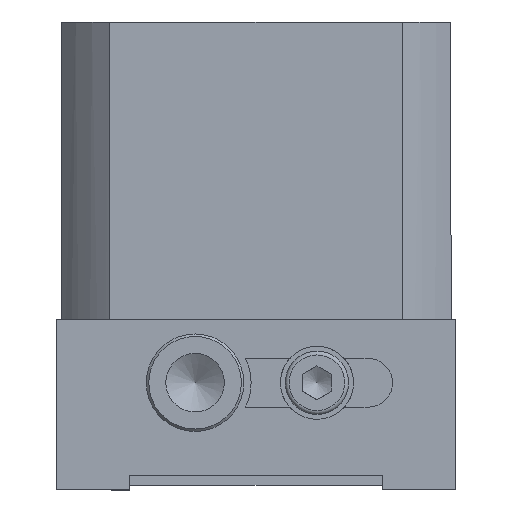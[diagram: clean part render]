
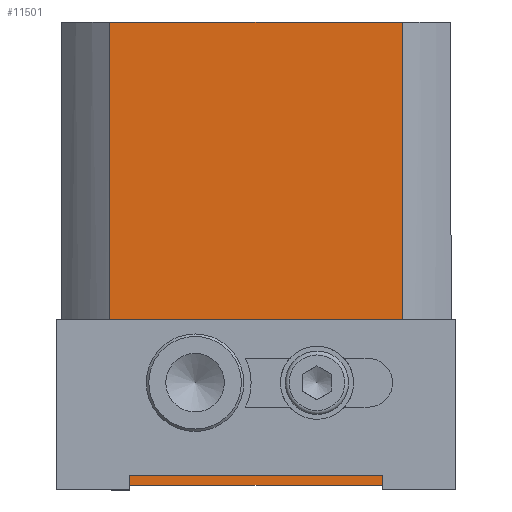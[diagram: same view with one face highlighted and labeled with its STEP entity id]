
A CAD part, left-side view. The second image highlights one B-rep face of the part: STEP entity #11501.
In plain terms, the highlighted planar face has unit normal (-1, 0, 0).
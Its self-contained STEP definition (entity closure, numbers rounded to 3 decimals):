
#9911=CARTESIAN_POINT('',(-40.,10.,-95.0));
#9912=VERTEX_POINT('',#9911);
#9920=CARTESIAN_POINT('',(-40.,70.,-95.0));
#9921=VERTEX_POINT('',#9920);
#9922=CARTESIAN_POINT('',(-40.0,70.,-95.0));
#9923=DIRECTION('',(0.0,-1.0,0.0));
#9924=VECTOR('',#9923,60.);
#9925=LINE('',#9922,#9924);
#9926=EDGE_CURVE('',#9921,#9912,#9925,.T.);
#10480=CARTESIAN_POINT('',(-40.,70.,0.0));
#10481=VERTEX_POINT('',#10480);
#10489=CARTESIAN_POINT('',(-40.,10.,0.0));
#10490=VERTEX_POINT('',#10489);
#10491=CARTESIAN_POINT('',(-40.0,70.,0.0));
#10492=DIRECTION('',(0.0,-1.0,0.0));
#10493=VECTOR('',#10492,60.);
#10494=LINE('',#10491,#10493);
#10495=EDGE_CURVE('',#10481,#10490,#10494,.T.);
#11355=CARTESIAN_POINT('',(-40.,10.,0.0));
#11356=DIRECTION('',(0.0,0.0,-1.0));
#11357=VECTOR('',#11356,95.0);
#11358=LINE('',#11355,#11357);
#11359=EDGE_CURVE('',#10490,#9912,#11358,.T.);
#11455=CARTESIAN_POINT('',(-40.,70.,0.0));
#11456=DIRECTION('',(0.0,0.0,-1.0));
#11457=VECTOR('',#11456,95.0);
#11458=LINE('',#11455,#11457);
#11459=EDGE_CURVE('',#10481,#9921,#11458,.T.);
#11468=CARTESIAN_POINT('',(-40.,70.,0.0));
#11469=DIRECTION('',(-1.0,0.0,0.0));
#11470=DIRECTION('',(0.0,0.0,1.0));
#11471=AXIS2_PLACEMENT_3D('',#11468,#11469,#11470);
#11472=PLANE('',#11471);
#11473=ORIENTED_EDGE('',*,*,#11359,.F.);
#11474=ORIENTED_EDGE('',*,*,#10495,.F.);
#11475=ORIENTED_EDGE('',*,*,#11459,.T.);
#11476=ORIENTED_EDGE('',*,*,#9926,.T.);
#11477=EDGE_LOOP('',(#11473,#11474,#11475,#11476));
#11478=FACE_OUTER_BOUND('',#11477,.T.);
#11479=CARTESIAN_POINT('',(-40.,62.5,-74.));
#11480=VERTEX_POINT('',#11479);
#11481=CARTESIAN_POINT('',(-40.,52.5,-74.));
#11482=DIRECTION('',(-1.0,0.0,0.0));
#11483=DIRECTION('',(0.0,1.0,0.0));
#11484=AXIS2_PLACEMENT_3D('',#11481,#11482,#11483);
#11485=CIRCLE('',#11484,10.0);
#11486=EDGE_CURVE('',#11480,#11480,#11485,.T.);
#11487=ORIENTED_EDGE('',*,*,#11486,.F.);
#11488=EDGE_LOOP('',(#11487));
#11489=FACE_BOUND('',#11488,.T.);
#11490=CARTESIAN_POINT('',(-40.,37.5,-74.));
#11491=VERTEX_POINT('',#11490);
#11492=CARTESIAN_POINT('',(-40.,27.5,-74.));
#11493=DIRECTION('',(-1.0,0.0,0.0));
#11494=DIRECTION('',(0.0,-1.0,0.0));
#11495=AXIS2_PLACEMENT_3D('',#11492,#11493,#11494);
#11496=CIRCLE('',#11495,10.0);
#11497=EDGE_CURVE('',#11491,#11491,#11496,.T.);
#11498=ORIENTED_EDGE('',*,*,#11497,.F.);
#11499=EDGE_LOOP('',(#11498));
#11500=FACE_BOUND('',#11499,.T.);
#11501=ADVANCED_FACE('',(#11478,#11489,#11500),#11472,.T.);
